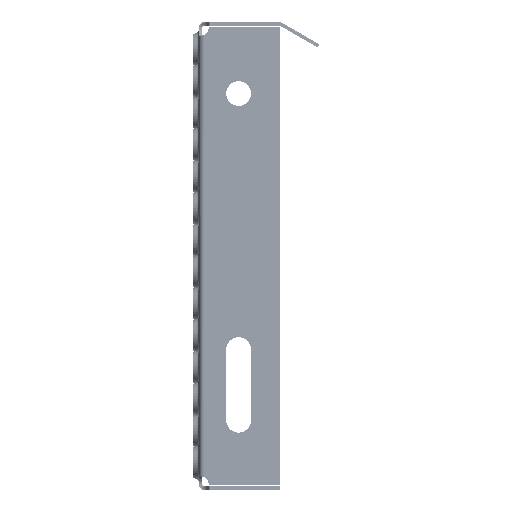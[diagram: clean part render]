
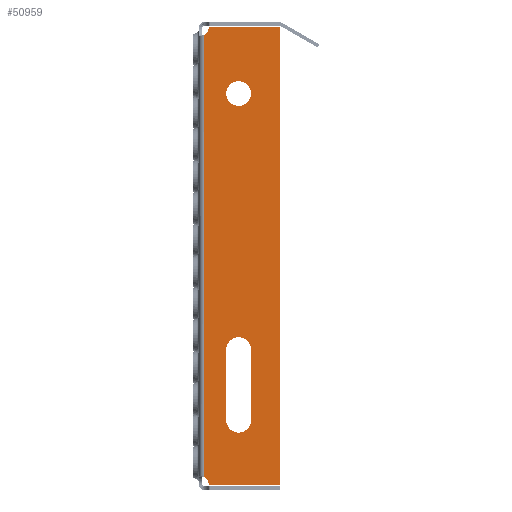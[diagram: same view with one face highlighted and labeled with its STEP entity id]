
A CAD part, left-side view. The second image highlights one B-rep face of the part: STEP entity #50959.
In plain terms, the highlighted planar face has unit normal (-1, 0, 0).
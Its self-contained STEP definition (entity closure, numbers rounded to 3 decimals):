
#419 = EDGE_LOOP ( 'NONE', ( #14569 ) ) ;
#1029 = CARTESIAN_POINT ( 'NONE',  ( -500., -5.43, -141.167 ) ) ;
#1169 = EDGE_CURVE ( 'NONE', #14201, #32329, #23939, .T. ) ;
#1795 = DIRECTION ( 'NONE',  ( 0., 0., 1. ) ) ;
#2163 = CARTESIAN_POINT ( 'NONE',  ( -500., -0.5, -142. ) ) ;
#2231 = VERTEX_POINT ( 'NONE', #37739 ) ;
#2454 = VERTEX_POINT ( 'NONE', #25590 ) ;
#3201 = CARTESIAN_POINT ( 'NONE',  ( -500., -22.5, 72.5 ) ) ;
#5311 = CARTESIAN_POINT ( 'NONE',  ( -500., -29.5, -65.5 ) ) ;
#6037 = EDGE_CURVE ( 'NONE', #32329, #23701, #41385, .T. ) ;
#6136 = CARTESIAN_POINT ( 'NONE',  ( -500., 0.5, -147.916 ) ) ;
#6819 = DIRECTION ( 'NONE',  ( 0., 0., -1. ) ) ;
#7157 = DIRECTION ( 'NONE',  ( -1., 0., 0. ) ) ;
#7730 = LINE ( 'NONE', #8499, #40332 ) ;
#7884 = VECTOR ( 'NONE', #45059, 1000. ) ;
#8496 = CARTESIAN_POINT ( 'NONE',  ( -500., -6.416, -141. ) ) ;
#8499 = CARTESIAN_POINT ( 'NONE',  ( -500., -15.5, -65.5 ) ) ;
#8646 = ORIENTED_EDGE ( 'NONE', *, *, #6037, .T. ) ;
#9575 = CIRCLE ( 'NONE', #54184, 7. ) ;
#9871 = EDGE_LOOP ( 'NONE', ( #50908, #19480, #43727, #56987 ) ) ;
#10932 = CARTESIAN_POINT ( 'NONE',  ( -500., -3., -147.916 ) ) ;
#11211 = ORIENTED_EDGE ( 'NONE', *, *, #28435, .T. ) ;
#12817 = EDGE_CURVE ( 'NONE', #22166, #22166, #23399, .T. ) ;
#13194 = DIRECTION ( 'NONE',  ( 0., 0., -1. ) ) ;
#13540 = VERTEX_POINT ( 'NONE', #26982 ) ;
#14009 = ORIENTED_EDGE ( 'NONE', *, *, #14742, .T. ) ;
#14201 = VERTEX_POINT ( 'NONE', #49746 ) ;
#14520 = CARTESIAN_POINT ( 'NONE',  ( -500., -15.5, -65.5 ) ) ;
#14569 = ORIENTED_EDGE ( 'NONE', *, *, #12817, .F. ) ;
#14742 = EDGE_CURVE ( 'NONE', #34909, #13540, #31093, .T. ) ;
#15838 = VERTEX_POINT ( 'NONE', #14520 ) ;
#16975 = AXIS2_PLACEMENT_3D ( 'NONE', #8496, #40898, #13194 ) ;
#18428 = LINE ( 'NONE', #5311, #56747 ) ;
#18702 = AXIS2_PLACEMENT_3D ( 'NONE', #6136, #57144, #29428 ) ;
#18706 = CARTESIAN_POINT ( 'NONE',  ( -500., -0.5, 117. ) ) ;
#19018 = CARTESIAN_POINT ( 'NONE',  ( -500., -46., -142. ) ) ;
#19480 = ORIENTED_EDGE ( 'NONE', *, *, #30932, .F. ) ;
#19521 = DIRECTION ( 'NONE',  ( 0., 0., 1. ) ) ;
#21493 = LINE ( 'NONE', #25938, #32351 ) ;
#22166 = VERTEX_POINT ( 'NONE', #3201 ) ;
#22170 = CIRCLE ( 'NONE', #35012, 1. ) ;
#22205 = DIRECTION ( 'NONE',  ( -1., 0., 0. ) ) ;
#22427 = CARTESIAN_POINT ( 'NONE',  ( -500., -6.416, -142. ) ) ;
#23055 = DIRECTION ( 'NONE',  ( -1., 0., 0. ) ) ;
#23367 = DIRECTION ( 'NONE',  ( 0., 0., -1. ) ) ;
#23399 = CIRCLE ( 'NONE', #35582, 7. ) ;
#23468 = EDGE_LOOP ( 'NONE', ( #31487, #45553, #8646, #58903, #11211, #14009, #59450, #29407 ) ) ;
#23701 = VERTEX_POINT ( 'NONE', #52002 ) ;
#23939 = CIRCLE ( 'NONE', #53902, 5. ) ;
#24184 = EDGE_CURVE ( 'NONE', #58745, #2231, #29013, .T. ) ;
#24318 = DIRECTION ( 'NONE',  ( -1., 0., 0. ) ) ;
#24389 = LINE ( 'NONE', #10932, #59815 ) ;
#25590 = CARTESIAN_POINT ( 'NONE',  ( -500., -29.5, -65.5 ) ) ;
#25938 = CARTESIAN_POINT ( 'NONE',  ( -500., -46., -142. ) ) ;
#26982 = CARTESIAN_POINT ( 'NONE',  ( -500., -6.416, 117. ) ) ;
#28040 = CARTESIAN_POINT ( 'NONE',  ( -500., -3., 112.67 ) ) ;
#28435 = EDGE_CURVE ( 'NONE', #30614, #34909, #21493, .T. ) ;
#29013 = CIRCLE ( 'NONE', #39495, 7. ) ;
#29407 = ORIENTED_EDGE ( 'NONE', *, *, #51416, .T. ) ;
#29428 = DIRECTION ( 'NONE',  ( 0., 0., -1. ) ) ;
#29720 = CIRCLE ( 'NONE', #32702, 5. ) ;
#30614 = VERTEX_POINT ( 'NONE', #19018 ) ;
#30932 = EDGE_CURVE ( 'NONE', #2454, #15838, #9575, .T. ) ;
#31093 = LINE ( 'NONE', #54159, #7884 ) ;
#31487 = ORIENTED_EDGE ( 'NONE', *, *, #49758, .F. ) ;
#32329 = VERTEX_POINT ( 'NONE', #1029 ) ;
#32351 = VECTOR ( 'NONE', #35235, 1000. ) ;
#32702 = AXIS2_PLACEMENT_3D ( 'NONE', #18706, #51060, #23367 ) ;
#32907 = FACE_BOUND ( 'NONE', #419, .T. ) ;
#33912 = PLANE ( 'NONE',  #18702 ) ;
#34590 = DIRECTION ( 'NONE',  ( 1., 0., 0. ) ) ;
#34909 = VERTEX_POINT ( 'NONE', #51408 ) ;
#34912 = CARTESIAN_POINT ( 'NONE',  ( -500., -6.416, 116. ) ) ;
#35012 = AXIS2_PLACEMENT_3D ( 'NONE', #34912, #7157, #39571 ) ;
#35235 = DIRECTION ( 'NONE',  ( 0., 0., 1. ) ) ;
#35582 = AXIS2_PLACEMENT_3D ( 'NONE', #49895, #22205, #54535 ) ;
#37739 = CARTESIAN_POINT ( 'NONE',  ( -500., -29.5, -105.5 ) ) ;
#38358 = EDGE_CURVE ( 'NONE', #15838, #58745, #7730, .T. ) ;
#39495 = AXIS2_PLACEMENT_3D ( 'NONE', #50736, #23055, #55375 ) ;
#39571 = DIRECTION ( 'NONE',  ( 0., 0., 1. ) ) ;
#40332 = VECTOR ( 'NONE', #40902, 1000. ) ;
#40367 = CARTESIAN_POINT ( 'NONE',  ( -500., -5.43, 116.167 ) ) ;
#40810 = EDGE_CURVE ( 'NONE', #2231, #2454, #18428, .T. ) ;
#40898 = DIRECTION ( 'NONE',  ( -1., 0., 0. ) ) ;
#40902 = DIRECTION ( 'NONE',  ( 0., 0., -1. ) ) ;
#41385 = CIRCLE ( 'NONE', #16975, 1. ) ;
#43268 = LINE ( 'NONE', #22427, #49786 ) ;
#43324 = VERTEX_POINT ( 'NONE', #40367 ) ;
#43727 = ORIENTED_EDGE ( 'NONE', *, *, #40810, .F. ) ;
#45059 = DIRECTION ( 'NONE',  ( 0., 1., 0. ) ) ;
#45553 = ORIENTED_EDGE ( 'NONE', *, *, #1169, .T. ) ;
#48286 = EDGE_CURVE ( 'NONE', #23701, #30614, #43268, .T. ) ;
#48441 = VERTEX_POINT ( 'NONE', #28040 ) ;
#49746 = CARTESIAN_POINT ( 'NONE',  ( -500., -3., -137.67 ) ) ;
#49758 = EDGE_CURVE ( 'NONE', #14201, #48441, #24389, .T. ) ;
#49786 = VECTOR ( 'NONE', #54748, 1000. ) ;
#49895 = CARTESIAN_POINT ( 'NONE',  ( -500., -22.5, 79.5 ) ) ;
#50736 = CARTESIAN_POINT ( 'NONE',  ( -500., -22.5, -105.5 ) ) ;
#50908 = ORIENTED_EDGE ( 'NONE', *, *, #38358, .F. ) ;
#50959 = ADVANCED_FACE ( 'NONE', ( #57489, #32907, #58947 ), #33912, .F. ) ;
#51060 = DIRECTION ( 'NONE',  ( 1., 0., 0. ) ) ;
#51408 = CARTESIAN_POINT ( 'NONE',  ( -500., -46., 117. ) ) ;
#51416 = EDGE_CURVE ( 'NONE', #43324, #48441, #29720, .T. ) ;
#52002 = CARTESIAN_POINT ( 'NONE',  ( -500., -6.416, -142. ) ) ;
#52014 = CARTESIAN_POINT ( 'NONE',  ( -500., -22.5, -65.5 ) ) ;
#53902 = AXIS2_PLACEMENT_3D ( 'NONE', #2163, #34590, #6819 ) ;
#54159 = CARTESIAN_POINT ( 'NONE',  ( -500., -46., 117. ) ) ;
#54184 = AXIS2_PLACEMENT_3D ( 'NONE', #52014, #24318, #56624 ) ;
#54535 = DIRECTION ( 'NONE',  ( 0., 0., -1. ) ) ;
#54748 = DIRECTION ( 'NONE',  ( 0., -1., 0. ) ) ;
#55375 = DIRECTION ( 'NONE',  ( 0., 0., -1. ) ) ;
#56044 = CARTESIAN_POINT ( 'NONE',  ( -500., -15.5, -105.5 ) ) ;
#56624 = DIRECTION ( 'NONE',  ( 0., 0., -1. ) ) ;
#56747 = VECTOR ( 'NONE', #19521, 1000. ) ;
#56987 = ORIENTED_EDGE ( 'NONE', *, *, #24184, .F. ) ;
#57144 = DIRECTION ( 'NONE',  ( 1., 0., 0. ) ) ;
#57489 = FACE_OUTER_BOUND ( 'NONE', #23468, .T. ) ;
#58042 = EDGE_CURVE ( 'NONE', #13540, #43324, #22170, .T. ) ;
#58745 = VERTEX_POINT ( 'NONE', #56044 ) ;
#58903 = ORIENTED_EDGE ( 'NONE', *, *, #48286, .T. ) ;
#58947 = FACE_BOUND ( 'NONE', #9871, .T. ) ;
#59450 = ORIENTED_EDGE ( 'NONE', *, *, #58042, .T. ) ;
#59815 = VECTOR ( 'NONE', #1795, 1000. ) ;
